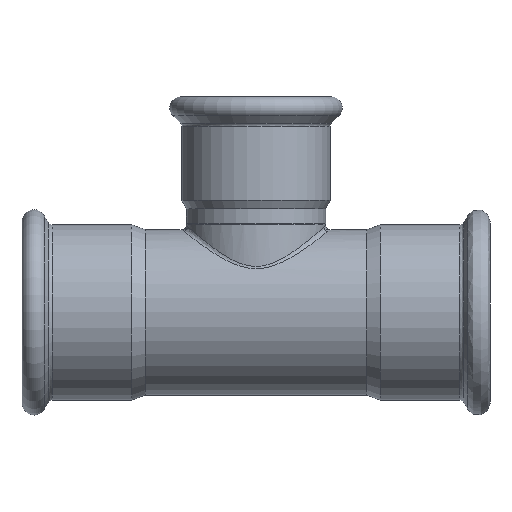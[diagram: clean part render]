
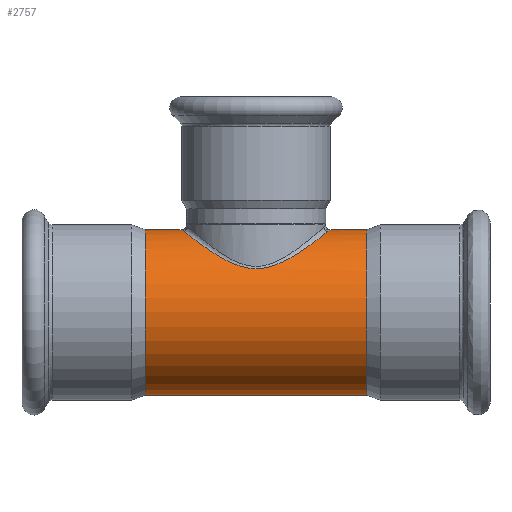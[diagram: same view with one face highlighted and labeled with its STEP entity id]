
A CAD part, front view. The second image highlights one B-rep face of the part: STEP entity #2757.
In plain terms, the highlighted cylindrical face has radius 38.05 mm (diameter 76.1 mm), a full revolution.
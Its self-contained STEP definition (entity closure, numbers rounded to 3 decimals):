
#2526=CARTESIAN_POINT('',(0.,-32.302,20.109));
#2527=VERTEX_POINT('',#2526);
#2621=CARTESIAN_POINT('',(0.,-32.302,20.109));
#2622=CARTESIAN_POINT('',(1.02,-32.302,20.109));
#2623=CARTESIAN_POINT('',(2.381,-32.243,20.204));
#2624=CARTESIAN_POINT('',(5.051,-31.977,20.624));
#2625=CARTESIAN_POINT('',(7.328,-31.585,21.229));
#2626=CARTESIAN_POINT('',(9.803,-30.948,22.143));
#2627=CARTESIAN_POINT('',(12.175,-30.201,23.162));
#2628=CARTESIAN_POINT('',(14.996,-29.059,24.602));
#2629=CARTESIAN_POINT('',(17.63,-27.661,26.153));
#2630=CARTESIAN_POINT('',(19.496,-26.478,27.335));
#2631=CARTESIAN_POINT('',(20.457,-25.806,27.965));
#2632=CARTESIAN_POINT('',(21.865,-24.766,28.904));
#2633=CARTESIAN_POINT('',(23.782,-23.171,30.232));
#2634=CARTESIAN_POINT('',(25.981,-20.904,31.831));
#2635=CARTESIAN_POINT('',(27.732,-18.738,33.141));
#2636=CARTESIAN_POINT('',(28.986,-16.927,34.097));
#2637=CARTESIAN_POINT('',(30.24,-14.834,35.066));
#2638=CARTESIAN_POINT('',(31.345,-12.616,35.932));
#2639=CARTESIAN_POINT('',(32.334,-10.093,36.715));
#2640=CARTESIAN_POINT('',(33.005,-7.866,37.25));
#2641=CARTESIAN_POINT('',(33.378,-6.198,37.55));
#2642=CARTESIAN_POINT('',(33.682,-4.515,37.794));
#2643=CARTESIAN_POINT('',(34.035,-1.746,38.078));
#2644=CARTESIAN_POINT('',(34.037,2.155,38.08));
#2645=CARTESIAN_POINT('',(33.533,5.554,37.673));
#2646=CARTESIAN_POINT('',(32.95,8.045,37.207));
#2647=CARTESIAN_POINT('',(32.341,10.07,36.721));
#2648=CARTESIAN_POINT('',(31.279,12.788,35.88));
#2649=CARTESIAN_POINT('',(30.151,14.999,34.997));
#2650=CARTESIAN_POINT('',(28.876,17.085,34.013));
#2651=CARTESIAN_POINT('',(27.726,18.745,33.137));
#2652=CARTESIAN_POINT('',(25.734,21.21,31.646));
#2653=CARTESIAN_POINT('',(22.938,23.99,29.623));
#2654=CARTESIAN_POINT('',(19.789,26.344,27.501));
#2655=CARTESIAN_POINT('',(17.085,27.959,25.827));
#2656=CARTESIAN_POINT('',(14.262,29.392,24.205));
#2657=CARTESIAN_POINT('',(11.783,30.348,22.969));
#2658=CARTESIAN_POINT('',(9.377,31.058,21.985));
#2659=CARTESIAN_POINT('',(7.737,31.479,21.381));
#2660=CARTESIAN_POINT('',(5.38,31.928,20.702));
#2661=CARTESIAN_POINT('',(2.719,32.233,20.221));
#2662=CARTESIAN_POINT('',(-0.001,32.337,20.053));
#2663=CARTESIAN_POINT('',(-2.723,32.232,20.222));
#2664=CARTESIAN_POINT('',(-5.825,31.877,20.782));
#2665=CARTESIAN_POINT('',(-8.379,31.34,21.59));
#2666=CARTESIAN_POINT('',(-10.804,30.646,22.559));
#2667=CARTESIAN_POINT('',(-12.745,29.977,23.449));
#2668=CARTESIAN_POINT('',(-15.349,28.872,24.809));
#2669=CARTESIAN_POINT('',(-17.453,27.755,26.049));
#2670=CARTESIAN_POINT('',(-19.457,26.509,27.308));
#2671=CARTESIAN_POINT('',(-21.056,25.396,28.356));
#2672=CARTESIAN_POINT('',(-23.287,23.603,29.884));
#2673=CARTESIAN_POINT('',(-25.361,21.591,31.374));
#2674=CARTESIAN_POINT('',(-27.416,19.17,32.901));
#2675=CARTESIAN_POINT('',(-29.116,16.781,34.194));
#2676=CARTESIAN_POINT('',(-30.601,14.175,35.348));
#2677=CARTESIAN_POINT('',(-31.745,11.657,36.247));
#2678=CARTESIAN_POINT('',(-32.502,9.56,36.849));
#2679=CARTESIAN_POINT('',(-33.125,7.385,37.347));
#2680=CARTESIAN_POINT('',(-33.6,5.156,37.728));
#2681=CARTESIAN_POINT('',(-34.035,1.747,38.078));
#2682=CARTESIAN_POINT('',(-34.038,-2.584,38.08));
#2683=CARTESIAN_POINT('',(-33.316,-6.826,37.499));
#2684=CARTESIAN_POINT('',(-32.342,-10.068,36.721));
#2685=CARTESIAN_POINT('',(-30.927,-13.693,35.6));
#2686=CARTESIAN_POINT('',(-29.149,-16.803,34.215));
#2687=CARTESIAN_POINT('',(-27.231,-19.362,32.766));
#2688=CARTESIAN_POINT('',(-25.045,-22.003,31.137));
#2689=CARTESIAN_POINT('',(-22.049,-24.773,28.988));
#2690=CARTESIAN_POINT('',(-18.62,-27.069,26.765));
#2691=CARTESIAN_POINT('',(-16.559,-28.23,25.523));
#2692=CARTESIAN_POINT('',(-14.429,-29.289,24.312));
#2693=CARTESIAN_POINT('',(-11.601,-30.432,22.87));
#2694=CARTESIAN_POINT('',(-7.977,-31.472,21.403));
#2695=CARTESIAN_POINT('',(-4.078,-32.146,20.364));
#2696=CARTESIAN_POINT('',(-1.36,-32.302,20.109));
#2697=CARTESIAN_POINT('',(0.,-32.302,20.109));
#2698=CARTESIAN_POINT('',(0.,-32.302,20.109));
#2699=CARTESIAN_POINT('',(0.,-32.302,20.109));
#2700=CARTESIAN_POINT('',(0.,-32.302,20.109));
#2701=B_SPLINE_CURVE_WITH_KNOTS('',3,(#2621,#2622,#2623,#2624,#2625,#2626,#2627,#2628,#2629,#2630,#2631,#2632,#2633,#2634,#2635,#2636,#2637,#2638,#2639,#2640,#2641,#2642,#2643,#2644,#2645,#2646,#2647,#2648,#2649,#2650,#2651,#2652,#2653,#2654,#2655,#2656,#2657,#2658,#2659,#2660,#2661,#2662,#2663,#2664,#2665,#2666,#2667,#2668,#2669,#2670,#2671,#2672,#2673,#2674,#2675,#2676,#2677,#2678,#2679,#2680,#2681,#2682,#2683,#2684,#2685,#2686,#2687,#2688,#2689,#2690,#2691,#2692,#2693,#2694,#2695,#2696,#2697,#2698,#2699,#2700),.UNSPECIFIED.,.T.,.U.,(4,1,1,1,1,1,1,1,1,1,1,1,1,1,1,1,1,1,1,1,1,1,1,1,1,1,1,1,1,1,1,1,1,1,1,1,1,1,1,1,1,1,1,1,1,1,1,1,1,1,1,1,1,1,1,1,1,1,1,1,1,1,1,1,1,1,1,1,1,1,1,1,1,1,3,4),(-20.949,-20.668,-20.575,-20.201,-20.014,-19.827,-19.453,-19.078,-18.891,-18.751,-18.704,-18.33,-17.956,-17.707,-17.457,-17.27,-16.959,-16.709,-16.46,-16.273,-16.21,-15.961,-15.462,-15.088,-14.963,-14.714,-14.465,-14.091,-13.966,-13.717,-13.467,-12.968,-12.47,-12.22,-11.971,-11.472,-11.41,-11.223,-10.973,-10.724,-10.474,-10.225,-9.976,-9.602,-9.477,-9.227,-8.978,-8.604,-8.479,-8.23,-7.981,-7.565,-7.315,-6.983,-6.65,-6.401,-6.152,-5.985,-5.736,-5.487,-4.988,-4.489,-4.24,-3.99,-3.325,-3.159,-2.993,-2.245,-1.87,-1.683,-1.496,-1.122,-0.748,-0.374,0.0,0.),.UNSPECIFIED.);
#2702=EDGE_CURVE('',#2527,#2527,#2701,.T.);
#2727=CARTESIAN_POINT('',(-25.483,0.,0.0));
#2728=DIRECTION('',(1.0,0.,0.0));
#2729=DIRECTION('',(0.0,1.0,0.0));
#2730=AXIS2_PLACEMENT_3D('',#2727,#2728,#2729);
#2731=CYLINDRICAL_SURFACE('',#2730,38.05);
#2732=CARTESIAN_POINT('',(-50.966,38.05,0.0));
#2733=VERTEX_POINT('',#2732);
#2734=CARTESIAN_POINT('',(-50.966,0.,0.0));
#2735=DIRECTION('',(1.0,0.0,0.0));
#2736=DIRECTION('',(0.0,1.0,0.0));
#2737=AXIS2_PLACEMENT_3D('',#2734,#2735,#2736);
#2738=CIRCLE('',#2737,38.05);
#2739=EDGE_CURVE('',#2733,#2733,#2738,.T.);
#2740=ORIENTED_EDGE('',*,*,#2739,.T.);
#2741=EDGE_LOOP('',(#2740));
#2742=FACE_OUTER_BOUND('',#2741,.T.);
#2743=CARTESIAN_POINT('',(50.966,38.05,0.0));
#2744=VERTEX_POINT('',#2743);
#2745=CARTESIAN_POINT('',(50.966,0.,0.0));
#2746=DIRECTION('',(1.0,0.0,0.0));
#2747=DIRECTION('',(0.0,1.0,0.0));
#2748=AXIS2_PLACEMENT_3D('',#2745,#2746,#2747);
#2749=CIRCLE('',#2748,38.05);
#2750=EDGE_CURVE('',#2744,#2744,#2749,.T.);
#2751=ORIENTED_EDGE('',*,*,#2750,.F.);
#2752=EDGE_LOOP('',(#2751));
#2753=FACE_BOUND('',#2752,.T.);
#2754=ORIENTED_EDGE('',*,*,#2702,.F.);
#2755=EDGE_LOOP('',(#2754));
#2756=FACE_BOUND('',#2755,.T.);
#2757=ADVANCED_FACE('',(#2742,#2753,#2756),#2731,.T.);
